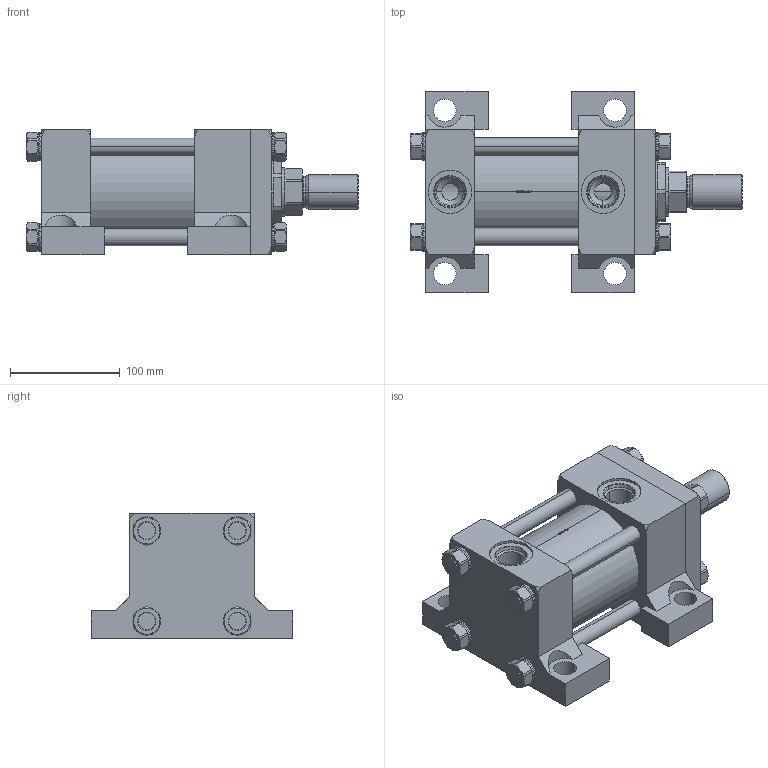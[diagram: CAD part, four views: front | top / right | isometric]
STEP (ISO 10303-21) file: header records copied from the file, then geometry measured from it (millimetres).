
FILE_DESCRIPTION (( 'STEP AP214' ), '1' );
FILE_NAME ('3.25C2HHNAT134A2.000.step', '2026-03-26T21:12:38', ( '' ), ( '' ), 'SwSTEP 2.0', 'SolidWorks 2023', '' );
FILE_SCHEMA (( 'AUTOMOTIVE_DESIGN' ));
Length unit declared in the file: inch
Products named in the file (1): 3.25C2HHNAT134A2.000
Bounding box: 303.21 x 184.15 x 114.3 mm (x, y, z)
Volume: 2265493 mm3; surface area: 407159.9 mm2
Topology: 47 solids, 47 shells, 1257 faces, 3241 edges, 2086 vertices
Faces by surface type: plane 807, cylinder 227, cone 163, bspline 52, torus 8
Entity records: 57117 total; most frequent: CARTESIAN_POINT 11579, ORIENTED_EDGE 6482, DIRECTION 5251, EDGE_CURVE 3241, VERTEX_POINT 2086, AXIS2_PLACEMENT_3D 1776, VECTOR 1699, LINE 1699
